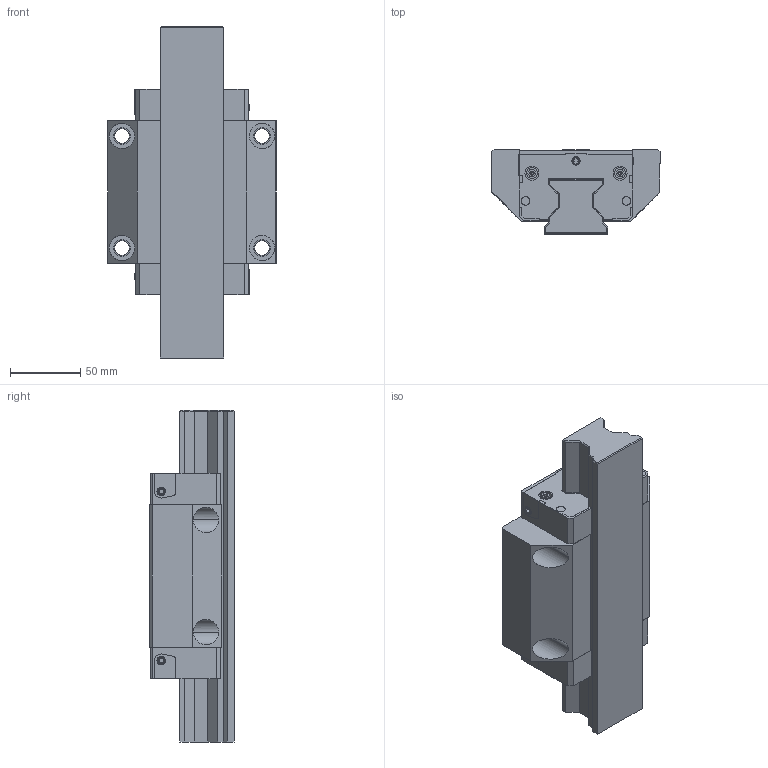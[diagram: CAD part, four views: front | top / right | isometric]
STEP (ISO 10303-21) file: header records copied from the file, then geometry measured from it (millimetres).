
FILE_DESCRIPTION((''),'2;1');
FILE_NAME('R1851_SIZE45_ASM','2021-07-06T04:26:42',('ac91sw'),(''),'CREO PARAMETRIC BY PTC INC, 2020044','CREO PARAMETRIC BY PTC INC, 2020044','');
FILE_SCHEMA(('AUTOMOTIVE_DESIGN { 1 0 10303 214 1 1 1 1 }'));
Length unit declared in the file: millimetre
Products named in the file (6): R1851_SIZE45_SKEL; R185142501; R185140702_Z; R913034226_Z; R1851_SIZE45_PSF; R1851_SIZE45_ASM
Assembly tree (11 placements, depth 2):
  R1851_SIZE45_ASM
    R1851_SIZE45_SKEL
    R185142501
    R185140702_Z  x2
    R913034226_Z  x6
    R1851_SIZE45_PSF
Bounding box: 120 x 60 x 237 mm (x, y, z)
Volume: 819080.1 mm3; surface area: 149289.6 mm2
Topology: 10 solids, 26 shells, 534 faces, 1362 edges, 874 vertices
Faces by surface type: plane 336, cylinder 142, cone 56
Entity records: 15419 total; most frequent: CARTESIAN_POINT 1931, DIRECTION 1598, ORIENTED_EDGE 1512, EDGE_CURVE 774, PROPERTY_DEFINITION 699, REPRESENTATION 692, PROPERTY_DEFINITION_REPRESENTATION 692, DESCRIPTIVE_REPRESENTATION_ITEM 643
